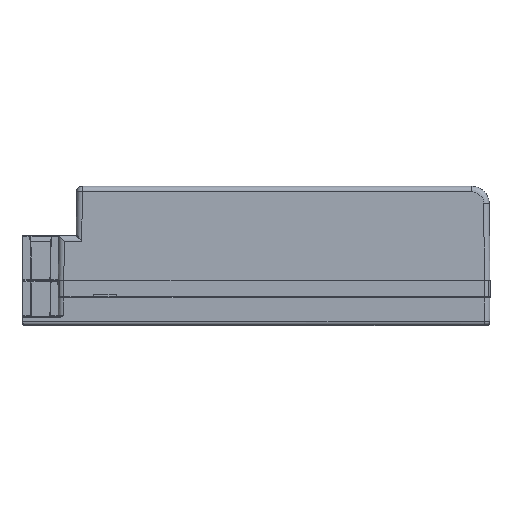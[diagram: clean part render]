
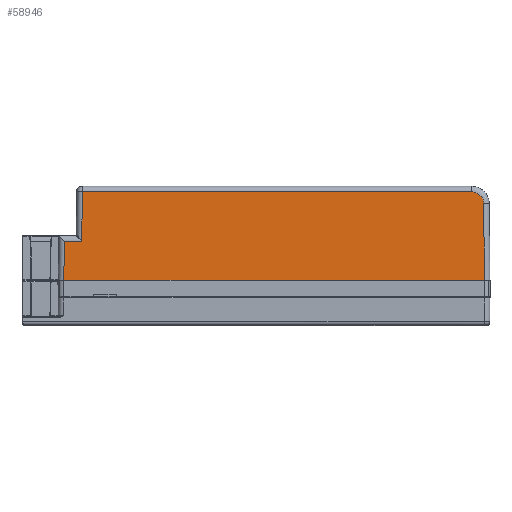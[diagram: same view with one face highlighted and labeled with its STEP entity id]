
A CAD part, top view. The second image highlights one B-rep face of the part: STEP entity #58946.
In plain terms, the highlighted planar face has unit normal (0, 0.009, 1).
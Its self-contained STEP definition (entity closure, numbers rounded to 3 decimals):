
#4953 = VERTEX_POINT ( 'NONE', #31641 ) ;
#5957 = EDGE_CURVE ( 'NONE', #4953, #40586, #37499, .T. ) ;
#6533 = ORIENTED_EDGE ( 'NONE', *, *, #43848, .T. ) ;
#6818 = LINE ( 'NONE', #55123, #89159 ) ;
#7148 = DIRECTION ( 'NONE',  ( 0., -1., 0.009 ) ) ;
#7753 = CARTESIAN_POINT ( 'NONE',  ( 131.21, 34.544, 38.16 ) ) ;
#8763 =( BOUNDED_CURVE ( )  B_SPLINE_CURVE ( 3, ( #87281, #39431, #47453, #103381 ),
 .UNSPECIFIED., .F., .F. ) 
 B_SPLINE_CURVE_WITH_KNOTS ( ( 4, 4 ),
 ( 4.721, 6.283 ),
 .UNSPECIFIED. ) 
 CURVE ( )  GEOMETRIC_REPRESENTATION_ITEM ( )  RATIONAL_B_SPLINE_CURVE ( ( 1., 0.807, 0.807, 1. ) ) 
 REPRESENTATION_ITEM ( '' )  );
#9391 = CARTESIAN_POINT ( 'NONE',  ( 11.909, 13.857, 38.341 ) ) ;
#10567 = DIRECTION ( 'NONE',  ( -0.009, -1., 0.009 ) ) ;
#12636 = DIRECTION ( 'NONE',  ( -1., 0., 0. ) ) ;
#16241 = CARTESIAN_POINT ( 'NONE',  ( 127.81, 37.914, 38.131 ) ) ;
#17436 = DIRECTION ( 'NONE',  ( -0.009, -1., 0.009 ) ) ;
#17579 = VECTOR ( 'NONE', #10567, 1000. ) ;
#19152 = FACE_OUTER_BOUND ( 'NONE', #36033, .T. ) ;
#21255 = EDGE_CURVE ( 'NONE', #45071, #4953, #83765, .T. ) ;
#22861 = PLANE ( 'NONE',  #89076 ) ;
#24578 = ORIENTED_EDGE ( 'NONE', *, *, #21255, .T. ) ;
#31641 = CARTESIAN_POINT ( 'NONE',  ( 16.997, 23.914, 38.253 ) ) ;
#32368 = VECTOR ( 'NONE', #63258, 1000. ) ;
#32479 = LINE ( 'NONE', #9391, #93628 ) ;
#32511 = ORIENTED_EDGE ( 'NONE', *, *, #62790, .T. ) ;
#33112 = CARTESIAN_POINT ( 'NONE',  ( 17.119, 37.914, 38.131 ) ) ;
#34249 = CARTESIAN_POINT ( 'NONE',  ( 16.909, 13.813, 38.341 ) ) ;
#36033 = EDGE_LOOP ( 'NONE', ( #73185, #6533, #46960, #32511, #83552, #61220, #24578 ) ) ;
#36444 = LINE ( 'NONE', #77586, #97648 ) ;
#37499 = LINE ( 'NONE', #76455, #77440 ) ;
#39431 = CARTESIAN_POINT ( 'NONE',  ( 131.193, 36.521, 38.143 ) ) ;
#40586 = VERTEX_POINT ( 'NONE', #102749 ) ;
#43092 = EDGE_CURVE ( 'NONE', #76404, #72253, #36444, .T. ) ;
#43848 = EDGE_CURVE ( 'NONE', #40586, #76404, #32479, .T. ) ;
#45071 = VERTEX_POINT ( 'NONE', #33112 ) ;
#46960 = ORIENTED_EDGE ( 'NONE', *, *, #43092, .T. ) ;
#47453 = CARTESIAN_POINT ( 'NONE',  ( 129.788, 37.914, 38.131 ) ) ;
#48543 = CARTESIAN_POINT ( 'NONE',  ( 11.9, 12.8, 38.35 ) ) ;
#52037 = EDGE_CURVE ( 'NONE', #54448, #45071, #6818, .T. ) ;
#54448 = VERTEX_POINT ( 'NONE', #16241 ) ;
#54937 = DIRECTION ( 'NONE',  ( 0., 0.009, 1. ) ) ;
#55123 = CARTESIAN_POINT ( 'NONE',  ( 15.533, 37.914, 38.131 ) ) ;
#58946 = ADVANCED_FACE ( 'NONE', ( #19152 ), #22861, .T. ) ;
#61220 = ORIENTED_EDGE ( 'NONE', *, *, #52037, .T. ) ;
#62790 = EDGE_CURVE ( 'NONE', #72253, #87436, #93513, .T. ) ;
#63258 = DIRECTION ( 'NONE',  ( -0.009, 1., -0.009 ) ) ;
#72253 = VERTEX_POINT ( 'NONE', #93191 ) ;
#73185 = ORIENTED_EDGE ( 'NONE', *, *, #5957, .T. ) ;
#76404 = VERTEX_POINT ( 'NONE', #48543 ) ;
#76455 = CARTESIAN_POINT ( 'NONE',  ( 133., 23.914, 38.253 ) ) ;
#77440 = VECTOR ( 'NONE', #12636, 1000. ) ;
#77586 = CARTESIAN_POINT ( 'NONE',  ( 133., 12.8, 38.35 ) ) ;
#83552 = ORIENTED_EDGE ( 'NONE', *, *, #96292, .T. ) ;
#83765 = LINE ( 'NONE', #34249, #17579 ) ;
#87226 = DIRECTION ( 'NONE',  ( -1., 0., 0. ) ) ;
#87281 = CARTESIAN_POINT ( 'NONE',  ( 131.21, 34.544, 38.16 ) ) ;
#87436 = VERTEX_POINT ( 'NONE', #7753 ) ;
#89076 = AXIS2_PLACEMENT_3D ( 'NONE', #102809, #54937, #7148 ) ;
#89159 = VECTOR ( 'NONE', #87226, 1000. ) ;
#93191 = CARTESIAN_POINT ( 'NONE',  ( 131.4, 12.8, 38.35 ) ) ;
#93513 = LINE ( 'NONE', #103380, #32368 ) ;
#93628 = VECTOR ( 'NONE', #17436, 1000. ) ;
#96292 = EDGE_CURVE ( 'NONE', #87436, #54448, #8763, .T. ) ;
#97648 = VECTOR ( 'NONE', #101025, 1000. ) ;
#101025 = DIRECTION ( 'NONE',  ( 1., 0., 0. ) ) ;
#102749 = CARTESIAN_POINT ( 'NONE',  ( 11.997, 23.914, 38.253 ) ) ;
#102809 = CARTESIAN_POINT ( 'NONE',  ( 133., 12.8, 38.35 ) ) ;
#103380 = CARTESIAN_POINT ( 'NONE',  ( 131.4, 12.786, 38.35 ) ) ;
#103381 = CARTESIAN_POINT ( 'NONE',  ( 127.81, 37.914, 38.131 ) ) ;
